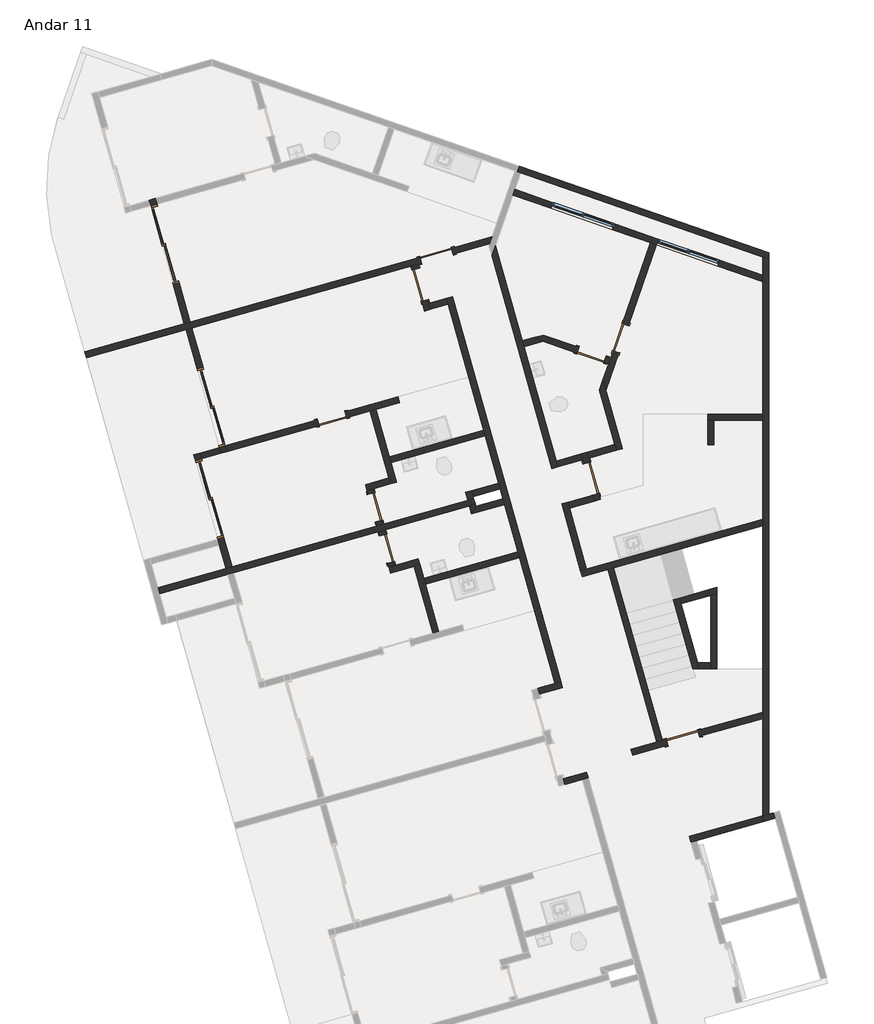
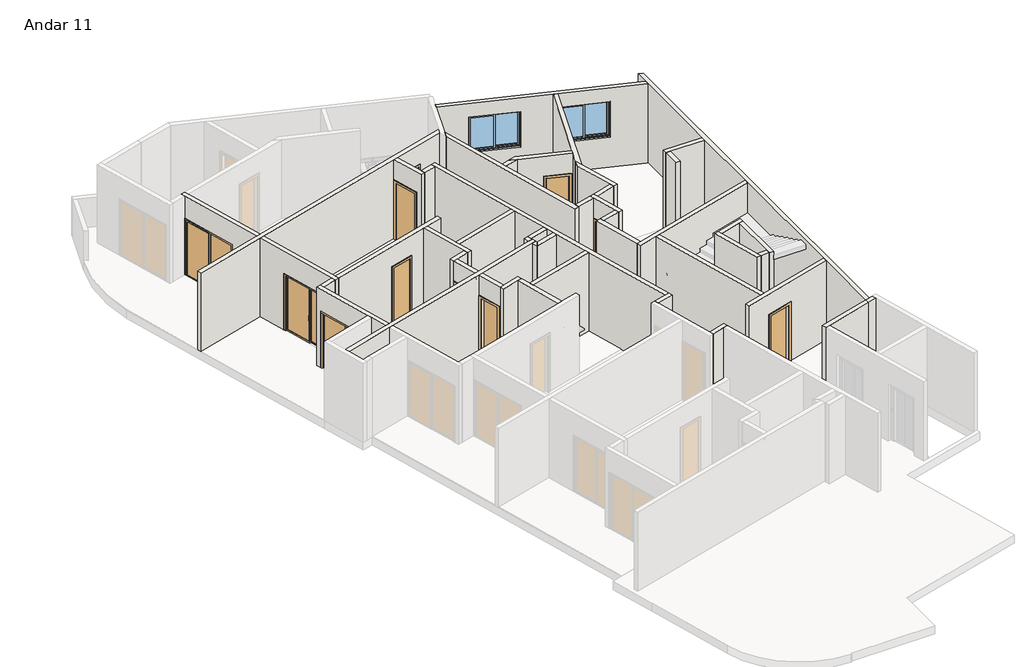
# One storey, part 2 of 3: 48 walls, 12 doors, 2 windows.
"""IFC4 building model written with IfcOpenShell, lengths in millimetres."""

from ifc_helpers import new_model, si_unit, frame, origin, place, context, project, spatial, polyline, outline, extrude, faceted_brep, transform, mapped, element, save
from components import p2_80cm_9d4be4ef, p2_80cm_083652d6, p3_70cm_ef4d15e3, p3_70cm_0a698c7c, p4_correr_200cm_eaaa0877, jx_160cm_e9e36a0c

model = new_model("IFC4")

# Units and contexts
model_context = context("Model", 3, world=origin())
ifc_project = project(units=[si_unit("LENGTHUNIT", "METRE", prefix="MILLI")], contexts=[model_context])

# Site, building, storey
site = spatial("IfcSite", under=ifc_project)
building = spatial("IfcBuilding", under=site)
storey = spatial("IfcBuildingStorey", under=building, Name="Andar 11", Elevation=82650.0)

# Doors
placement = place(None, origin())
p2_80cm_shape = p2_80cm_9d4be4ef(model_context)
element("IfcDoor", 1, ObjectType="M_Folha única1 : P2 - 80CM", at=placement, inside=storey, context=model_context, shape_type="MappedRepresentation", body=[
    mapped(p2_80cm_shape, transform((-83145.1128896, 30941.0402894, 82650.0), x_axis=(-0.9623628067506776, -0.2717679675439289, 0.0), y_axis=(0.2717679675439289, -0.9623628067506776, 0.0), z_axis=(0.0, 0.0, 1.0))),
])
element("IfcDoor", 2, ObjectType="M_Folha única1 : P2 - 80CM", at=placement, inside=storey, context=model_context, shape_type="MappedRepresentation", body=[
    mapped(p2_80cm_shape, transform((-79349.4097406, 25479.1041247, 82650.0), x_axis=(-0.27176796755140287, 0.962362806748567, 0.0), y_axis=(-0.962362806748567, -0.27176796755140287, 0.0), z_axis=(0.0, 0.0, 1.0))),
])
p2_80cm_2_shape = p2_80cm_083652d6(model_context)
element("IfcDoor", 3, ObjectType="M_Folha única1 : P2 - 80CM", at=placement, inside=storey, context=model_context, shape_type="MappedRepresentation", body=[
    mapped(p2_80cm_2_shape, transform((-83542.2049222, 30231.4150941, 82650.0), x_axis=(-0.2717679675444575, 0.9623628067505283, 0.0), y_axis=(-0.9623628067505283, -0.2717679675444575, 0.0), z_axis=(0.0, 0.0, 1.0))),
])
p3_70cm_shape = p3_70cm_ef4d15e3(model_context)
element("IfcDoor", 4, ObjectType="M_Folha única1 : P3 - 70CM", at=placement, inside=storey, context=model_context, shape_type="MappedRepresentation", body=[
    mapped(p3_70cm_shape, transform((-84650.97864, 24774.7108835, 82650.0), x_axis=(0.2717679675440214, -0.9623628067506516, 0.0), y_axis=(0.9623628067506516, 0.2717679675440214, 0.0), z_axis=(0.0, 0.0, 1.0))),
])
p3_70cm_2_shape = p3_70cm_0a698c7c(model_context)
element("IfcDoor", 5, ObjectType="M_Folha única1 : P3 - 70CM", at=placement, inside=storey, context=model_context, shape_type="MappedRepresentation", body=[
    mapped(p3_70cm_2_shape, transform((-84365.6222741, 23764.2299364, 82650.0), x_axis=(-0.2717679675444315, 0.9623628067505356, 0.0), y_axis=(-0.9623628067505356, -0.2717679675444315, 0.0), z_axis=(0.0, 0.0, 1.0))),
])
element("IfcDoor", 6, ObjectType="M_Folha única1 : P3 - 70CM", at=placement, inside=storey, context=model_context, shape_type="MappedRepresentation", body=[
    mapped(p3_70cm_2_shape, transform((-85705.4317558, 26944.8211633, 82650.0), x_axis=(0.9623628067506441, 0.2717679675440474, 0.0), y_axis=(-0.2717679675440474, 0.9623628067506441, 0.0), z_axis=(0.0, 0.0, 1.0))),
])
element("IfcDoor", 7, ObjectType="M_Folha única1 : P3 - 70CM", at=placement, inside=storey, context=model_context, shape_type="MappedRepresentation", body=[
    mapped(p3_70cm_2_shape, transform((-79346.1223746, 28509.6973665, 82650.0), x_axis=(0.9449109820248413, -0.32732741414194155, 0.0), y_axis=(0.32732741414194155, 0.9449109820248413, 0.0), z_axis=(0.0, 0.0, 1.0))),
])
element("IfcDoor", 8, ObjectType="M_Folha única1 : P3 - 70CM", at=placement, inside=storey, context=model_context, shape_type="MappedRepresentation", body=[
    mapped(p3_70cm_2_shape, transform((-78626.5662556, 28921.8732895, 82650.0), x_axis=(-0.32732741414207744, -0.9449109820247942, 0.0), y_axis=(0.9449109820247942, -0.32732741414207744, 0.0), z_axis=(0.0, 0.0, 1.0))),
])
p4_correr_200cm_shape = p4_correr_200cm_eaaa0877(model_context)
element("IfcDoor", 9, ObjectType="Porta de correr dupla envidraçada sem revestimento : P4 - CORRER - 200CM", at=placement, inside=storey, context=model_context, shape_type="MappedRepresentation", body=[
    mapped(p4_correr_200cm_shape, transform((-89799.7974026, 31217.9316171, 82650.0), x_axis=(0.27176796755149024, -0.9623628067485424, 0.0), y_axis=(0.9623628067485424, 0.27176796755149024, 0.0), z_axis=(0.0, 0.0, 1.0))),
])
element("IfcDoor", 10, ObjectType="Porta de correr dupla envidraçada sem revestimento : P4 - CORRER - 200CM", at=placement, inside=storey, context=model_context, shape_type="MappedRepresentation", body=[
    mapped(p4_correr_200cm_shape, transform((-88671.9603372, 27224.125969, 82650.0), x_axis=(-0.27176796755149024, 0.9623628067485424, 0.0), y_axis=(-0.9623628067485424, -0.27176796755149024, 0.0), z_axis=(0.0, 0.0, 1.0))),
])
element("IfcDoor", 11, ObjectType="Porta de correr dupla envidraçada sem revestimento : P4 - CORRER - 200CM", at=placement, inside=storey, context=model_context, shape_type="MappedRepresentation", body=[
    mapped(p4_correr_200cm_shape, transform((-88709.3738038, 24979.4758572, 82650.0), x_axis=(-0.2717679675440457, 0.9623628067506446, 0.0), y_axis=(-0.9623628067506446, -0.2717679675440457, 0.0), z_axis=(0.0, 0.0, 1.0))),
])
element("IfcDoor", 12, ObjectType="M_Folha única1 : PCF1 - 80CM", at=placement, inside=storey, context=model_context, shape_type="MappedRepresentation", body=[
    mapped(p2_80cm_shape, transform((-77103.5502958, 19127.1105693, 82650.0), x_axis=(-0.9623628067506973, -0.2717679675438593, 0.0), y_axis=(0.2717679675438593, -0.9623628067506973, 0.0), z_axis=(0.0, 0.0, 1.0))),
])

# Walls
element("IfcWall", 13, ObjectType="Básica .15 -  Interna", at=placement, inside=storey, context=model_context, shape_type="Brep", body=[
    faceted_brep([(-82901.0804648, 29892.9118737, 82650.0), (-82860.3152697, 29748.5574527, 82650.0), (-81990.6577736, 26668.9964711, 82650.0), (-81949.8925784, 26524.6420501, 82650.0), (-81623.7710174, 25369.806682, 82650.0), (-81583.0058223, 25225.452261, 82650.0), (-81515.0638304, 24984.8615593, 82650.0), (-81474.2986352, 24840.5071383, 82650.0), (-81148.1770742, 23685.6717702, 82650.0), (-81107.4118791, 23541.3173492, 82650.0), (-80237.7543829, 20461.7563676, 82650.0), (-80237.7543829, 20461.7563676, 85550.0), (-81107.4118791, 23541.3173492, 85550.0), (-81148.1770742, 23685.6717702, 85550.0), (-81474.2986352, 24840.5071383, 85550.0), (-81515.0638304, 24984.8615593, 85550.0), (-81583.0058223, 25225.452261, 85550.0), (-81623.7710174, 25369.806682, 85550.0), (-81949.8925784, 26524.6420501, 85550.0), (-81990.6577736, 26668.9964711, 85550.0), (-82860.3152697, 29748.5574527, 85550.0), (-82901.0804648, 29892.9118737, 85550.0), (-82756.7260438, 29933.6770689, 82650.0), (-82756.7260438, 29933.6770689, 85550.0), (-80093.3999619, 20502.5215627, 85550.0), (-80093.3999619, 20502.5215627, 82650.0)], [[[0, 1, 2, 3, 4, 5, 6, 7, 8, 9, 10, 11, 12, 13, 14, 15, 16, 17, 18, 19, 20, 21]], [[22, 23, 24, 25]], [[10, 9, 8, 7, 6, 5, 4, 3, 2, 1, 0, 22, 25]], [[21, 20, 19, 18, 17, 16, 15, 14, 13, 12, 11, 24, 23]], [[0, 21, 23, 22]], [[11, 10, 25, 24]]]),
])
element("IfcWall", 14, ObjectType="Básica .15 -  Interna", at=placement, inside=storey, context=model_context, shape_type="Brep", body=[
    faceted_brep([(-83750.2661164, 30692.2138999, 82650.0), (-83723.0893197, 30595.9776193, 82650.0), (-83723.0893197, 30595.9776193, 84750.0), (-83505.6749457, 29826.0873739, 84750.0), (-83505.6749457, 29826.0873739, 82650.0), (-83437.7329538, 29585.4966722, 82650.0), (-83437.7329538, 29585.4966722, 85550.0), (-83750.2661164, 30692.2138999, 85550.0), (-83578.7348987, 30636.7428144, 84750.0), (-83578.7348987, 30636.7428144, 82650.0), (-83605.9116954, 30732.9790951, 82650.0), (-83605.9116954, 30732.9790951, 85550.0), (-83334.1437279, 29770.6162883, 85550.0), (-83293.3785328, 29626.2618673, 85550.0), (-83293.3785328, 29626.2618673, 82650.0), (-83334.1437279, 29770.6162883, 82650.0), (-83361.3205246, 29866.852569, 82650.0), (-83361.3205246, 29866.852569, 84750.0)], [[[0, 1, 2, 3, 4, 5, 6, 7]], [[8, 9, 10, 11, 12, 13, 14, 15, 16, 17]], [[10, 9, 1, 0]], [[16, 15, 14, 5, 4]], [[7, 6, 13, 12, 11]], [[6, 5, 14, 13]], [[0, 7, 11, 10]], [[2, 1, 9, 8]], [[3, 2, 8, 17]], [[4, 3, 17, 16]]]),
])
element("IfcWall", 15, ObjectType="Básica .15 -  Interna", at=placement, inside=storey, context=model_context, shape_type="SweptSolid", body=[
    extrude(outline(polyline([(-82860.3152697, 29748.5574527), (-83293.3785328, 29626.2618673), (-83334.1437279, 29770.6162883), (-82901.0804648, 29892.9118737), (-82860.3152697, 29748.5574527)])), frame((0.0, 0.0, 82650.0), z_axis=(0.0, 0.0, 1.0), x_axis=(1.0, 0.0, 0.0)), (0.0, 0.0, 1.0), 2900.0),
])
element("IfcWall", 16, ObjectType="Básica .15 -  Interna", at=placement, inside=storey, context=model_context, shape_type="Brep", body=[
    faceted_brep([(-80093.3999619, 20502.5215627, 82650.0), (-80237.7543829, 20461.7563676, 82650.0), (-80670.817646, 20339.4607822, 82650.0), (-80670.817646, 20339.4607822, 85550.0), (-80237.7543829, 20461.7563676, 85550.0), (-80093.3999619, 20502.5215627, 85550.0), (-80052.6347668, 20358.1671417, 82650.0), (-80052.6347668, 20358.1671417, 85550.0), (-80630.0524508, 20195.1063612, 85550.0), (-80630.0524508, 20195.1063612, 82650.0)], [[[0, 1, 2, 3, 4, 5]], [[6, 7, 8, 9]], [[2, 1, 0, 6, 9]], [[5, 4, 3, 8, 7]], [[3, 2, 9, 8]], [[0, 5, 7, 6]]]),
])
element("IfcWall", 17, ObjectType="Básica .15 -  Interna", at=placement, inside=storey, context=model_context, shape_type="Brep", body=[
    faceted_brep([(-80004.9861255, 17981.6719056, 82650.0), (-79571.9228624, 18103.967491, 82650.0), (-79427.5684414, 18144.7326862, 82650.0), (-79427.5684414, 18144.7326862, 85550.0), (-79571.9228624, 18103.967491, 85550.0), (-80004.9861255, 17981.6719056, 85550.0), (-80045.7513206, 18126.0263266, 82650.0), (-80045.7513206, 18126.0263266, 85550.0), (-79468.3336366, 18289.0871072, 85550.0), (-79468.3336366, 18289.0871072, 82650.0)], [[[0, 1, 2, 3, 4, 5]], [[6, 7, 8, 9]], [[2, 1, 0, 6, 9]], [[5, 4, 3, 8, 7]], [[3, 2, 9, 8]], [[0, 5, 7, 6]]]),
])
element("IfcWall", 18, ObjectType="Básica .15 -  Interna", at=placement, inside=storey, context=model_context, shape_type="Brep", body=[
    faceted_brep([(-88305.9570711, 23274.9583478, 85550.0), (-88469.0178517, 23852.3760319, 85550.0), (-88509.7830468, 23996.7304529, 85550.0), (-89094.084177, 26065.8104874, 85550.0), (-89094.084177, 26065.8104874, 82650.0), (-89053.3189819, 25921.4560664, 82650.0), (-89053.3189819, 25921.4560664, 84750.0), (-88509.7830468, 23996.7304529, 84750.0), (-88509.7830468, 23996.7304529, 82650.0), (-88469.0178517, 23852.3760319, 82650.0), (-88305.9570711, 23274.9583478, 82650.0), (-88949.729756, 26106.5756825, 85550.0), (-88908.9645609, 25962.2212615, 85550.0), (-88161.6026501, 23315.723543, 85550.0), (-88161.6026501, 23315.723543, 82650.0), (-88365.4286258, 24037.495648, 82650.0), (-88365.4286258, 24037.495648, 84750.0), (-88908.9645609, 25962.2212615, 84750.0), (-88908.9645609, 25962.2212615, 82650.0), (-88949.729756, 26106.5756825, 82650.0)], [[[0, 1, 2, 3, 4, 5, 6, 7, 8, 9, 10]], [[11, 12, 13, 14, 15, 16, 17, 18, 19]], [[4, 19, 18, 5]], [[14, 10, 9, 8, 15]], [[3, 2, 1, 0, 13, 12, 11]], [[4, 3, 11, 19]], [[0, 10, 14, 13]], [[17, 6, 5, 18]], [[6, 17, 16, 7]], [[7, 16, 15, 8]]]),
])
element("IfcWall", 19, ObjectType="Básica .15 -  Interna", at=placement, inside=storey, context=model_context, shape_type="Brep", body=[
    faceted_brep([(-89143.3190618, 29169.2341801, 85550.0), (-88328.0151592, 26282.1457598, 85550.0), (-88287.249964, 26137.7913388, 85550.0), (-88287.249964, 26137.7913388, 82650.0), (-88328.0151592, 26282.1457598, 82650.0), (-88328.0151592, 26282.1457598, 84750.0), (-88871.5510943, 28206.8713733, 84750.0), (-88871.5510943, 28206.8713733, 82650.0), (-89143.3190618, 29169.2341801, 82650.0), (-88431.604385, 26097.0261437, 85550.0), (-88472.3695802, 26241.3805647, 85550.0), (-89287.6734828, 29128.468985, 85550.0), (-89287.6734828, 29128.468985, 82650.0), (-89015.9055153, 28166.1061782, 82650.0), (-89015.9055153, 28166.1061782, 84750.0), (-88472.3695802, 26241.3805647, 84750.0), (-88472.3695802, 26241.3805647, 82650.0), (-88431.604385, 26097.0261437, 82650.0)], [[[0, 1, 2, 3, 4, 5, 6, 7, 8]], [[9, 10, 11, 12, 13, 14, 15, 16, 17]], [[3, 17, 16, 4]], [[12, 8, 7, 13]], [[2, 1, 0, 11, 10, 9]], [[3, 2, 9, 17]], [[0, 8, 12, 11]], [[6, 14, 13, 7]], [[14, 6, 5, 15]], [[15, 5, 4, 16]]]),
])
element("IfcWall", 20, ObjectType="Básica .15 -  Interna", at=placement, inside=storey, context=model_context, shape_type="Brep", body=[
    faceted_brep([(-76904.7538909, 16570.3643175, 82650.0), (-76760.3994699, 16611.1295126, 82650.0), (-75147.8282189, 17066.5141226, 82650.0), (-75147.8282189, 17066.5141226, 85550.0), (-76760.3994699, 16611.1295126, 85550.0), (-76904.7538909, 16570.3643175, 85550.0), (-76945.5190861, 16714.7187385, 82650.0), (-76945.5190861, 16714.7187385, 85550.0), (-75147.8282189, 17222.3804954, 85550.0), (-75147.8282189, 17222.3804954, 82650.0)], [[[0, 1, 2, 3, 4, 5]], [[6, 7, 8, 9]], [[2, 1, 0, 6, 9]], [[5, 4, 3, 8, 7]], [[0, 5, 7, 6]], [[3, 2, 9, 8]]]),
])
element("IfcWall", 21, ObjectType="Básica .15 -  Interna", at=placement, inside=storey, context=model_context, shape_type="Brep", body=[
    faceted_brep([(-79570.9048554, 23078.5590693, 82650.0), (-78948.2127609, 23254.4051886, 82650.0), (-78803.8582924, 23295.1703972, 82650.0), (-75147.8282189, 24327.6207947, 82650.0), (-75147.8282189, 24327.6207947, 85550.0), (-78803.8582924, 23295.1703972, 85550.0), (-78948.2127609, 23254.4051886, 85550.0), (-79570.9048554, 23078.5590693, 85550.0), (-79611.6700506, 23222.9134903, 82650.0), (-79611.6700506, 23222.9134903, 85550.0), (-79467.3156296, 23263.6786855, 85550.0), (-75147.8282189, 24483.4871675, 85550.0), (-75147.8282189, 24483.4871675, 82650.0), (-79467.3156296, 23263.6786855, 82650.0)], [[[0, 1, 2, 3, 4, 5, 6, 7]], [[8, 9, 10, 11, 12, 13]], [[3, 2, 1, 0, 8, 13, 12]], [[7, 6, 5, 4, 11, 10, 9]], [[0, 7, 9, 8]], [[4, 3, 12, 11]]]),
])
element("IfcWall", 22, ObjectType="Básica .15 -  Interna", at=placement, inside=storey, context=model_context, shape_type="SweptSolid", body=[
    extrude(outline(polyline([(-77749.4687652, 19022.6385875), (-78948.2127609, 23254.4051886), (-78803.8582924, 23295.1703972), (-77605.1142967, 19063.4037961), (-77749.4687652, 19022.6385875)])), frame((0.0, 0.0, 82650.0), z_axis=(0.0, 0.0, 1.0), x_axis=(1.0, 0.0, 0.0)), (0.0, 0.0, 1.0), 2900.0),
])
element("IfcWall", 23, ObjectType="Básica .15 -  Interna", at=placement, inside=storey, context=model_context, shape_type="Brep", body=[
    faceted_brep([(-77508.878016, 19090.5805928, 84750.0), (-77508.878016, 19090.5805928, 82650.0), (-77605.1142967, 19063.4037961, 82650.0), (-77749.4687652, 19022.6385875, 82650.0), (-78375.5945972, 18845.8227925, 82650.0), (-78375.5945972, 18845.8227925, 85550.0), (-77749.4687652, 19022.6385875, 85550.0), (-77605.1142967, 19063.4037961, 85550.0), (-75147.8282189, 19757.3329862, 85550.0), (-75147.8282189, 19757.3329862, 82650.0), (-76738.9877706, 19307.9949669, 82650.0), (-76738.9877706, 19307.9949669, 84750.0), (-78334.829402, 18701.4683715, 82650.0), (-77468.1128209, 18946.2261718, 82650.0), (-77468.1128209, 18946.2261718, 84750.0), (-76698.2225755, 19163.6405459, 84750.0), (-76698.2225755, 19163.6405459, 82650.0), (-75147.8282189, 19601.4666134, 82650.0), (-75147.8282189, 19601.4666134, 85550.0), (-78334.829402, 18701.4683715, 85550.0)], [[[0, 1, 2, 3, 4, 5, 6, 7, 8, 9, 10, 11]], [[12, 13, 14, 15, 16, 17, 18, 19]], [[10, 9, 17, 16]], [[4, 3, 2, 1, 13, 12]], [[5, 4, 12, 19]], [[8, 7, 6, 5, 19, 18]], [[14, 13, 1, 0]], [[15, 14, 0, 11]], [[16, 15, 11, 10]], [[9, 8, 18, 17]]]),
])
element("IfcWall", 24, ObjectType="Básica .15 - Externa", at=placement, inside=storey, context=model_context, shape_type="Brep", body=[
    faceted_brep([(-75147.8282189, 30909.9128092, 85550.0), (-75147.8282189, 30909.9128092, 82650.0), (-75147.8282189, 30461.6117638, 82650.0), (-75147.8282189, 30302.8666514, 82650.0), (-75147.8282189, 27060.8243598, 82650.0), (-75147.8282189, 26910.8243598, 82650.0), (-75147.8282189, 24483.4871675, 82650.0), (-75147.8282189, 24327.6207947, 82650.0), (-75147.8282189, 19757.3329862, 82650.0), (-75147.8282189, 19601.4666134, 82650.0), (-75147.8282189, 17222.3804954, 82650.0), (-75147.8282189, 17222.3804954, 85550.0), (-75147.8282189, 19601.4666134, 85550.0), (-75147.8282189, 19757.3329862, 85550.0), (-75147.8282189, 24327.6207947, 85550.0), (-75147.8282189, 24483.4871675, 85550.0), (-75147.8282189, 26910.8243598, 85550.0), (-75147.8282189, 27060.8243598, 85550.0), (-75147.8282189, 30302.8666514, 85550.0), (-75147.8282189, 30461.6117638, 85550.0), (-74997.8282189, 30857.9511821, 82650.0), (-74997.8282189, 30857.9511821, 83950.0), (-74997.8282189, 30857.9511821, 85250.0), (-74997.8282189, 30857.9511821, 85550.0), (-74997.8282189, 17264.7399828, 85550.0), (-74997.8282189, 17264.7399828, 82650.0)], [[[0, 1, 2, 3, 4, 5, 6, 7, 8, 9, 10, 11, 12, 13, 14, 15, 16, 17, 18, 19]], [[20, 21, 22, 23, 24, 25]], [[10, 9, 8, 7, 6, 5, 4, 3, 2, 1, 20, 25]], [[0, 19, 18, 17, 16, 15, 14, 13, 12, 11, 24, 23]], [[11, 10, 25, 24]], [[0, 23, 22, 21, 20, 1]]]),
])
element("IfcWall", 25, ObjectType="Básica .15 -  Interna", at=placement, inside=storey, context=model_context, shape_type="Brep", body=[
    faceted_brep([(-80073.6755954, 24858.9302618, 82650.0), (-79611.6700506, 23222.9134903, 82650.0), (-79611.6700506, 23222.9134903, 85550.0), (-80073.6755954, 24858.9302618, 85550.0), (-79929.3211744, 24899.695457, 82650.0), (-79929.3211744, 24899.695457, 85550.0), (-79888.5559793, 24755.3410359, 85550.0), (-79467.3156296, 23263.6786855, 85550.0), (-79467.3156296, 23263.6786855, 82650.0), (-79888.5559793, 24755.3410359, 82650.0)], [[[0, 1, 2, 3]], [[4, 5, 6, 7, 8, 9]], [[1, 0, 4, 9, 8]], [[3, 2, 7, 6, 5]], [[0, 3, 5, 4]], [[2, 1, 8, 7]]]),
])
element("IfcWall", 26, ObjectType="Básica .15 -  Interna", at=placement, inside=storey, context=model_context, shape_type="Brep", body=[
    faceted_brep([(-79888.5559793, 24755.3410359, 82650.0), (-79272.1145689, 24929.4219834, 82650.0), (-79272.1145689, 24929.4219834, 85550.0), (-79888.5559793, 24755.3410359, 85550.0), (-79929.3211744, 24899.695457, 82650.0), (-79929.3211744, 24899.695457, 85550.0), (-79312.8797641, 25073.7764044, 85550.0), (-79312.8797641, 25073.7764044, 84750.0), (-79312.8797641, 25073.7764044, 82650.0)], [[[0, 1, 2, 3]], [[4, 5, 6, 7, 8]], [[1, 0, 4, 8]], [[3, 2, 6, 5]], [[0, 3, 5, 4]], [[2, 1, 8, 7, 6]]]),
])
element("IfcWall", 27, ObjectType="Básica .15 -  Interna", at=placement, inside=storey, context=model_context, shape_type="Brep", body=[
    faceted_brep([(-79598.23613, 26084.2573515, 82650.0), (-79557.4709349, 25939.9029305, 82650.0), (-79530.2941381, 25843.6666498, 82650.0), (-79530.2941381, 25843.6666498, 84750.0), (-79312.8797641, 25073.7764044, 84750.0), (-79312.8797641, 25073.7764044, 82650.0), (-79272.1145689, 24929.4219834, 82650.0), (-79272.1145689, 24929.4219834, 85550.0), (-79312.8797641, 25073.7764044, 85550.0), (-79557.4709349, 25939.9029305, 85550.0), (-79598.23613, 26084.2573515, 85550.0), (-79385.9397171, 25884.4318449, 84750.0), (-79385.9397171, 25884.4318449, 82650.0), (-79413.1165138, 25980.6681256, 82650.0), (-79453.881709, 26125.0225466, 82650.0), (-79453.881709, 26125.0225466, 85550.0), (-79413.1165138, 25980.6681256, 85550.0), (-79127.7601479, 24970.1871785, 85550.0), (-79127.7601479, 24970.1871785, 82650.0), (-79168.5253431, 25114.5415995, 82650.0), (-79168.5253431, 25114.5415995, 84750.0)], [[[0, 1, 2, 3, 4, 5, 6, 7, 8, 9, 10]], [[11, 12, 13, 14, 15, 16, 17, 18, 19, 20]], [[19, 18, 6, 5]], [[14, 13, 12, 2, 1, 0]], [[10, 9, 8, 7, 17, 16, 15]], [[7, 6, 18, 17]], [[0, 10, 15, 14]], [[3, 2, 12, 11]], [[4, 3, 11, 20]], [[5, 4, 20, 19]]]),
])
element("IfcWall", 28, ObjectType="Básica .15 -  Interna", at=placement, inside=storey, context=model_context, shape_type="Brep", body=[
    faceted_brep([(-81789.2550074, 30934.0017027, 82650.0), (-80318.2667662, 25725.0567879, 82650.0), (-80318.2667662, 25725.0567879, 85550.0), (-81789.2550074, 30934.0017027, 85550.0), (-81703.3880158, 31181.8778654, 82650.0), (-81703.3880158, 31181.8778654, 85550.0), (-81045.1503443, 28850.9797144, 85550.0), (-81004.3851492, 28706.6252933, 85550.0), (-80214.6775403, 25910.176404, 85550.0), (-80173.9123452, 25765.821983, 85550.0), (-80173.9123452, 25765.821983, 82650.0), (-80214.6775403, 25910.176404, 82650.0), (-81004.3851492, 28706.6252933, 82650.0), (-81045.1503443, 28850.9797144, 82650.0)], [[[0, 1, 2, 3]], [[4, 5, 6, 7, 8, 9, 10, 11, 12, 13]], [[1, 0, 4, 13, 12, 11, 10]], [[3, 2, 9, 8, 7, 6, 5]], [[0, 3, 5, 4]], [[2, 1, 10, 9]]]),
])
element("IfcWall", 29, ObjectType="Básica .15 -  Interna", at=placement, inside=storey, context=model_context, shape_type="Brep", body=[
    faceted_brep([(-88908.9645609, 25962.2212615, 82650.0), (-88431.604385, 26097.0261437, 82650.0), (-88431.604385, 26097.0261437, 85550.0), (-88908.9645609, 25962.2212615, 85550.0), (-88908.9645609, 25962.2212615, 84750.0), (-88949.729756, 26106.5756825, 82650.0), (-88949.729756, 26106.5756825, 85550.0), (-88472.3695802, 26241.3805647, 85550.0), (-88472.3695802, 26241.3805647, 82650.0)], [[[0, 1, 2, 3, 4]], [[5, 6, 7, 8]], [[1, 0, 5, 8]], [[3, 2, 7, 6]], [[0, 4, 3, 6, 5]], [[2, 1, 8, 7]]]),
])
element("IfcWall", 30, ObjectType="Básica .15 -  Interna", at=placement, inside=storey, context=model_context, shape_type="SweptSolid", body=[
    extrude(outline(polyline([(-79557.4709349, 25939.9029305), (-80173.9123452, 25765.821983), (-80214.6775403, 25910.176404), (-79598.23613, 26084.2573515), (-79557.4709349, 25939.9029305)])), frame((0.0, 0.0, 82650.0), z_axis=(0.0, 0.0, 1.0), x_axis=(1.0, 0.0, 0.0)), (0.0, 0.0, 1.0), 2900.0),
])
element("IfcWall", 31, ObjectType="Básica .15 -  Interna", at=placement, inside=storey, context=model_context, shape_type="Brep", body=[
    faceted_brep([(-91725.2428613, 28440.1077234, 82650.0), (-89287.6734828, 29128.468985, 82650.0), (-89143.3190618, 29169.2341801, 82650.0), (-83750.2661164, 30692.2138999, 82650.0), (-83605.9116954, 30732.9790951, 82650.0), (-83509.6754148, 30760.1558918, 82650.0), (-83509.6754148, 30760.1558918, 84750.0), (-82739.7851694, 30977.5702659, 84750.0), (-82739.7851694, 30977.5702659, 82650.0), (-81845.4155775, 31230.1371819, 82650.0), (-81845.4155775, 31230.1371819, 85550.0), (-83605.9116954, 30732.9790951, 85550.0), (-83750.2661164, 30692.2138999, 85550.0), (-89143.3190618, 29169.2341801, 85550.0), (-89287.6734828, 29128.468985, 85550.0), (-91725.2428613, 28440.1077234, 85550.0), (-83550.4406099, 30904.5103128, 84750.0), (-83550.4406099, 30904.5103128, 82650.0), (-89184.084257, 29313.5886011, 82650.0), (-89328.438678, 29272.823406, 82650.0), (-91766.0080564, 28584.4621444, 82650.0), (-91766.0080564, 28584.4621444, 85550.0), (-89328.438678, 29272.823406, 85550.0), (-89184.084257, 29313.5886011, 85550.0), (-81785.5670817, 31402.9045654, 85550.0), (-81785.5670817, 31402.9045654, 82650.0), (-82780.5503645, 31121.9246869, 82650.0), (-82780.5503645, 31121.9246869, 84750.0)], [[[0, 1, 2, 3, 4, 5, 6, 7, 8, 9, 10, 11, 12, 13, 14, 15]], [[16, 17, 18, 19, 20, 21, 22, 23, 24, 25, 26, 27]], [[26, 25, 9, 8]], [[20, 19, 18, 17, 5, 4, 3, 2, 1, 0]], [[15, 14, 13, 12, 11, 10, 24, 23, 22, 21]], [[0, 15, 21, 20]], [[10, 9, 25, 24]], [[6, 5, 17, 16]], [[7, 6, 16, 27]], [[8, 7, 27, 26]]]),
])
element("IfcWall", 32, ObjectType="Básica .15 -  Interna", at=placement, inside=storey, context=model_context, shape_type="Brep", body=[
    faceted_brep([(-90040.1533547, 32345.0314424, 85550.0), (-89999.3881596, 32200.6770214, 85550.0), (-89184.084257, 29313.5886011, 85550.0), (-89184.084257, 29313.5886011, 82650.0), (-89455.8522245, 30275.9514079, 82650.0), (-89455.8522245, 30275.9514079, 84750.0), (-89999.3881596, 32200.6770214, 84750.0), (-89999.3881596, 32200.6770214, 82650.0), (-90040.1533547, 32345.0314424, 82650.0), (-89328.438678, 29272.823406, 85550.0), (-90143.7425806, 32159.9118263, 85550.0), (-90184.5077758, 32304.2662473, 85550.0), (-90184.5077758, 32304.2662473, 82650.0), (-90143.7425806, 32159.9118262, 82650.0), (-90143.7425806, 32159.9118262, 84750.0), (-89600.2066455, 30235.1862128, 84750.0), (-89600.2066455, 30235.1862128, 82650.0), (-89328.438678, 29272.823406, 82650.0)], [[[0, 1, 2, 3, 4, 5, 6, 7, 8]], [[9, 10, 11, 12, 13, 14, 15, 16, 17]], [[12, 8, 7, 13]], [[3, 17, 16, 4]], [[2, 1, 0, 11, 10, 9]], [[0, 8, 12, 11]], [[3, 2, 9, 17]], [[15, 5, 4, 16]], [[5, 15, 14, 6]], [[6, 14, 13, 7]]]),
])
element("IfcWall", 33, ObjectType="Básica .15 -  Interna", at=placement, inside=storey, context=model_context, shape_type="Brep", body=[
    faceted_brep([(-89936.6922366, 22658.5779377, 82650.0), (-88265.191876, 23130.6039268, 82650.0), (-88120.837455, 23171.369122, 82650.0), (-84560.09507, 24176.9106019, 82650.0), (-84415.740649, 24217.675797, 82650.0), (-82192.6825654, 24845.459802, 82650.0), (-82192.6825654, 24845.459802, 85550.0), (-84415.740649, 24217.675797, 85550.0), (-84560.09507, 24176.9106019, 85550.0), (-88120.837455, 23171.369122, 85550.0), (-88265.191876, 23130.6039268, 85550.0), (-89936.6922366, 22658.5779377, 85550.0), (-89977.4574318, 22802.9323587, 82650.0), (-89977.4574318, 22802.9323587, 85550.0), (-88305.9570711, 23274.9583478, 85550.0), (-88161.6026501, 23315.723543, 85550.0), (-84600.8602651, 24321.2650229, 85550.0), (-84456.5058441, 24362.030218, 85550.0), (-82233.4477605, 24989.814223, 85550.0), (-82233.4477605, 24989.814223, 82650.0), (-84456.5058441, 24362.030218, 82650.0), (-84600.8602651, 24321.2650229, 82650.0), (-88161.6026501, 23315.723543, 82650.0), (-88305.9570711, 23274.9583478, 82650.0)], [[[0, 1, 2, 3, 4, 5, 6, 7, 8, 9, 10, 11]], [[12, 13, 14, 15, 16, 17, 18, 19, 20, 21, 22, 23]], [[5, 4, 3, 2, 1, 0, 12, 23, 22, 21, 20, 19]], [[6, 5, 19, 18]], [[11, 10, 9, 8, 7, 6, 18, 17, 16, 15, 14, 13]], [[0, 11, 13, 12]]]),
])
element("IfcWall", 34, ObjectType="Básica .15 -  Interna", at=placement, inside=storey, context=model_context, shape_type="Brep", body=[
    faceted_brep([(-81272.8781344, 32424.6503839, 82650.0), (-77897.5766162, 31255.4093243, 82650.0), (-77755.8399689, 31206.3102121, 82650.0), (-75147.8282189, 30302.8666514, 82650.0), (-75147.8282189, 30302.8666514, 85550.0), (-77755.8399689, 31206.3102121, 85550.0), (-77897.5766162, 31255.4093243, 85550.0), (-81272.8781344, 32424.6503839, 85550.0), (-78829.2985897, 31578.1679228, 83750.0), (-80341.1561609, 32101.8917854, 83750.0), (-80341.1561609, 32101.8917854, 85050.0), (-78829.2985897, 31578.1679228, 85050.0), (-76243.9823976, 30682.5863495, 83750.0), (-77755.8399689, 31206.3102121, 83750.0), (-77755.8399689, 31206.3102121, 85050.0), (-76243.9823976, 30682.5863495, 85050.0), (-81223.7790223, 32566.3870312, 82650.0), (-81223.7790223, 32566.3870312, 85550.0), (-75147.8282189, 30461.6117638, 85550.0), (-75147.8282189, 30461.6117638, 82650.0), (-78780.1994776, 31719.9045701, 83750.0), (-78780.1994776, 31719.9045701, 85050.0), (-80292.0570488, 32243.6284327, 85050.0), (-80292.0570488, 32243.6284327, 83750.0), (-76194.8832855, 30824.3229968, 83750.0), (-76194.8832855, 30824.3229968, 85050.0), (-77706.7408568, 31348.0468595, 85050.0), (-77706.7408568, 31348.0468595, 83750.0)], [[[0, 1, 2, 3, 4, 5, 6, 7], [8, 9, 10, 11], [12, 13, 14, 15]], [[16, 17, 18, 19], [20, 21, 22, 23], [24, 25, 26, 27]], [[3, 2, 1, 0, 16, 19]], [[7, 6, 5, 4, 18, 17]], [[0, 7, 17, 16]], [[21, 20, 8, 11]], [[22, 21, 11, 10]], [[23, 22, 10, 9]], [[20, 23, 9, 8]], [[25, 24, 12, 15]], [[26, 25, 15, 14]], [[27, 26, 14, 13]], [[24, 27, 13, 12]], [[4, 3, 19, 18]]]),
])
element("IfcWall", 35, ObjectType="Básica .15 - Externa", at=placement, inside=storey, context=model_context, shape_type="Brep", body=[
    faceted_brep([(-81156.3583355, 32991.3328194, 83950.0), (-81156.3583355, 32991.3328194, 82650.0), (-81156.3583355, 32991.3328194, 82350.0), (-81085.1216301, 32966.655652, 82350.0), (-74997.8282189, 30857.9511821, 82350.0), (-74997.8282189, 30857.9511821, 82650.0), (-74997.8282189, 30857.9511821, 83950.0), (-81085.1216301, 32966.655652, 83950.0), (-81107.2592234, 33133.0694667, 82350.0), (-81107.2592234, 33133.0694667, 82650.0), (-81107.2592234, 33133.0694667, 83950.0), (-81036.022518, 33108.3922993, 83950.0), (-74997.8282189, 31016.6962944, 83950.0), (-74997.8282189, 31016.6962944, 82350.0), (-81036.022518, 33108.3922993, 82350.0)], [[[0, 1, 2, 3, 4, 5, 6, 7]], [[8, 9, 10, 11, 12, 13, 14]], [[4, 3, 2, 8, 14, 13]], [[0, 7, 6, 12, 11, 10]], [[0, 10, 9, 8, 2, 1]], [[4, 13, 12, 6, 5]]]),
])
element("IfcWall", 36, ObjectType="Básica .15 -  Interna", at=placement, inside=storey, context=model_context, shape_type="SweptSolid", body=[
    extrude(outline(polyline([(-82179.094167, 24797.3416617), (-81515.0638304, 24984.8615593), (-81474.2986352, 24840.5071383), (-82282.6833929, 24612.2220455), (-82179.094167, 24797.3416617)])), frame((0.0, 0.0, 82650.0), z_axis=(0.0, 0.0, 1.0), x_axis=(1.0, 0.0, 0.0)), (0.0, 0.0, 1.0), 2900.0),
])
element("IfcWall", 37, ObjectType="Básica .15 -  Interna", at=placement, inside=storey, context=model_context, shape_type="SweptSolid", body=[
    extrude(outline(polyline([(-82192.6825654, 24845.459802), (-82179.094167, 24797.3416617), (-82282.6833929, 24612.2220455), (-82337.0369864, 24804.6946069), (-82192.6825654, 24845.459802)])), frame((0.0, 0.0, 82650.0), z_axis=(0.0, 0.0, 1.0), x_axis=(1.0, 0.0, 0.0)), (0.0, 0.0, 1.0), 2900.0),
])
element("IfcWall", 38, ObjectType="Básica .15 -  Interna", at=placement, inside=storey, context=model_context, shape_type="Brep", body=[
    faceted_brep([(-83593.7317942, 23514.6100515, 82650.0), (-84171.1494782, 23351.5492709, 82650.0), (-84315.5038992, 23310.7840758, 82650.0), (-84315.5038992, 23310.7840758, 85550.0), (-84171.1494782, 23351.5492709, 85550.0), (-83593.7317942, 23514.6100515, 85550.0), (-83552.966599, 23370.2556304, 82650.0), (-83552.966599, 23370.2556304, 85550.0), (-83697.32102, 23329.4904353, 85550.0), (-84274.7387041, 23166.4296548, 85550.0), (-84274.7387041, 23166.4296548, 82650.0), (-83697.32102, 23329.4904353, 82650.0)], [[[0, 1, 2, 3, 4, 5]], [[6, 7, 8, 9, 10, 11]], [[2, 1, 0, 6, 11, 10]], [[5, 4, 3, 9, 8, 7]], [[0, 5, 7, 6]], [[3, 2, 10, 9]]]),
])
element("IfcWall", 39, ObjectType="Básica .15 -  Interna", at=placement, inside=storey, context=model_context, shape_type="Brep", body=[
    faceted_brep([(-83090.9610542, 21734.238859, 82650.0), (-83417.0826153, 22889.0742271, 82650.0), (-83457.8478104, 23033.4286481, 82650.0), (-83552.966599, 23370.2556304, 82650.0), (-83552.966599, 23370.2556304, 85550.0), (-83457.8478104, 23033.4286481, 85550.0), (-83417.0826153, 22889.0742271, 85550.0), (-83090.9610542, 21734.238859, 85550.0), (-83235.3154752, 21693.4736638, 82650.0), (-83235.3154752, 21693.4736638, 85550.0), (-83697.32102, 23329.4904353, 85550.0), (-83697.32102, 23329.4904353, 82650.0)], [[[0, 1, 2, 3, 4, 5, 6, 7]], [[8, 9, 10, 11]], [[3, 2, 1, 0, 8, 11]], [[7, 6, 5, 4, 10, 9]], [[0, 7, 9, 8]], [[4, 3, 11, 10]]]),
])
element("IfcWall", 40, ObjectType="Básica .15 -  Interna", at=placement, inside=storey, context=model_context, shape_type="SweptSolid", body=[
    extrude(outline(polyline([(-83457.8478104, 23033.4286481), (-81148.1770742, 23685.6717702), (-81107.4118791, 23541.3173492), (-83417.0826153, 22889.0742271), (-83457.8478104, 23033.4286481)])), frame((0.0, 0.0, 82650.0), z_axis=(0.0, 0.0, 1.0), x_axis=(1.0, 0.0, 0.0)), (0.0, 0.0, 1.0), 2900.0),
])
element("IfcWall", 41, ObjectType="Básica .15 -  Interna", at=placement, inside=storey, context=model_context, shape_type="SweptSolid", body=[
    extrude(outline(polyline([(150.0, 0.0), (250.0, 0.0), (250.0, -2100.0), (950.0, -2100.0), (950.0, 0.0), (1050.0, 0.0), (1050.0, -2900.0), (150.0, -2900.0), (150.0, 0.0)])), frame((-84600.8602651, 24321.2650229, 82650.0), z_axis=(0.9623628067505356, 0.2717679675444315, 0.0), x_axis=(0.2717679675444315, -0.9623628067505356, 0.0)), (0.0, 0.0, 1.0), 150.0),
])
element("IfcWall", 42, ObjectType="Básica .15 -  Interna", at=placement, inside=storey, context=model_context, shape_type="Brep", body=[
    faceted_brep([(-84770.8044918, 27130.823522, 82650.0), (-84308.798947, 25494.8067505, 82650.0), (-84268.0337519, 25350.4523295, 82650.0), (-84268.0337519, 25350.4523295, 85550.0), (-84308.798947, 25494.8067505, 85550.0), (-84770.8044918, 27130.823522, 85550.0), (-84626.4500708, 27171.5887171, 82650.0), (-84626.4500708, 27171.5887171, 85550.0), (-84300.3285098, 26016.753349, 85550.0), (-84259.5633146, 25872.398928, 85550.0), (-84123.6793309, 25391.2175246, 85550.0), (-84123.6793309, 25391.2175246, 82650.0), (-84259.5633146, 25872.398928, 82650.0), (-84300.3285098, 26016.753349, 82650.0)], [[[0, 1, 2, 3, 4, 5]], [[6, 7, 8, 9, 10, 11, 12, 13]], [[2, 1, 0, 6, 13, 12, 11]], [[5, 4, 3, 10, 9, 8, 7]], [[3, 2, 11, 10]], [[0, 5, 7, 6]]]),
])
element("IfcWall", 43, ObjectType="Básica .15 -  Interna", at=placement, inside=storey, context=model_context, shape_type="SweptSolid", body=[
    extrude(outline(polyline([(-84300.3285098, 26016.753349), (-81990.6577736, 26668.9964711), (-81949.8925784, 26524.6420501), (-84259.5633146, 25872.398928), (-84300.3285098, 26016.753349)])), frame((0.0, 0.0, 82650.0), z_axis=(0.0, 0.0, 1.0), x_axis=(1.0, 0.0, 0.0)), (0.0, 0.0, 1.0), 2900.0),
])
element("IfcWall", 44, ObjectType="Básica .15 -  Interna", at=placement, inside=storey, context=model_context, shape_type="Brep", body=[
    faceted_brep([(-84308.798947, 25494.8067505, 82650.0), (-84886.2166311, 25331.74597, 82650.0), (-84886.2166311, 25331.74597, 85550.0), (-84308.798947, 25494.8067505, 85550.0), (-84268.0337519, 25350.4523295, 82650.0), (-84268.0337519, 25350.4523295, 85550.0), (-84701.0970149, 25228.1567441, 85550.0), (-84845.4514359, 25187.391549, 85550.0), (-84845.4514359, 25187.391549, 82650.0), (-84701.0970149, 25228.1567441, 82650.0)], [[[0, 1, 2, 3]], [[4, 5, 6, 7, 8, 9]], [[1, 0, 4, 9, 8]], [[3, 2, 7, 6, 5]], [[2, 1, 8, 7]], [[0, 3, 5, 4]]]),
])
element("IfcWall", 45, ObjectType="Básica .15 -  Interna", at=placement, inside=storey, context=model_context, shape_type="SweptSolid", body=[
    extrude(outline(polyline([(800.0, -2100.0), (800.0, 0.0), (900.0, 0.0), (900.0, -2900.0), (0.0, -2900.0), (0.0, 0.0), (100.0, 0.0), (100.0, -2100.0), (800.0, -2100.0)])), frame((-84845.4514359, 25187.391549, 82650.0), z_axis=(0.9623628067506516, 0.2717679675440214, 0.0), x_axis=(0.2717679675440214, -0.9623628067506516, 0.0)), (0.0, 0.0, 1.0), 150.0),
])
element("IfcWall", 46, ObjectType="Básica .15 -  Interna", at=placement, inside=storey, context=model_context, shape_type="Brep", body=[
    faceted_brep([(-82432.1557751, 25141.5215893, 82650.0), (-82377.8021816, 24949.0490279, 82650.0), (-82377.8021816, 24949.0490279, 85550.0), (-82432.1557751, 25141.5215893, 85550.0), (-82287.801354, 25182.2867844, 82650.0), (-82287.801354, 25182.2867844, 85550.0), (-82247.0361589, 25037.9323634, 85550.0), (-82233.4477605, 24989.814223, 85550.0), (-82233.4477605, 24989.814223, 82650.0), (-82247.0361589, 25037.9323634, 82650.0)], [[[0, 1, 2, 3]], [[4, 5, 6, 7, 8, 9]], [[1, 0, 4, 9, 8]], [[2, 1, 8, 7]], [[3, 2, 7, 6, 5]], [[0, 3, 5, 4]]]),
])
element("IfcWall", 47, ObjectType="Básica .15 -  Interna", at=placement, inside=storey, context=model_context, shape_type="SweptSolid", body=[
    extrude(outline(polyline([(-81583.0058223, 25225.452261), (-82247.0361589, 25037.9323634), (-82287.801354, 25182.2867844), (-81623.7710174, 25369.806682), (-81583.0058223, 25225.452261)])), frame((0.0, 0.0, 82650.0), z_axis=(0.0, 0.0, 1.0), x_axis=(1.0, 0.0, 0.0)), (0.0, 0.0, 1.0), 2900.0),
])
element("IfcWall", 48, ObjectType="Básica .15 -  Interna", at=placement, inside=storey, context=model_context, shape_type="Brep", body=[
    faceted_brep([(-76493.6479314, 26910.8243598, 82650.0), (-76343.6479314, 26910.8243598, 82650.0), (-75147.8282189, 26910.8243598, 82650.0), (-75147.8282189, 26910.8243598, 85550.0), (-76343.6479314, 26910.8243598, 85550.0), (-76493.6479314, 26910.8243598, 85550.0), (-76493.6479314, 27060.8243598, 82650.0), (-76493.6479314, 27060.8243598, 85550.0), (-75147.8282189, 27060.8243598, 85550.0), (-75147.8282189, 27060.8243598, 82650.0)], [[[0, 1, 2, 3, 4, 5]], [[6, 7, 8, 9]], [[2, 1, 0, 6, 9]], [[5, 4, 3, 8, 7]], [[0, 5, 7, 6]], [[3, 2, 9, 8]]]),
])
element("IfcWall", 49, ObjectType="Básica .15 -  Interna", at=placement, inside=storey, context=model_context, shape_type="SweptSolid", body=[
    extrude(outline(polyline([(-76343.6479314, 26910.8243598), (-76343.6479314, 26310.8243598), (-76493.6479314, 26310.8243598), (-76493.6479314, 26910.8243598), (-76343.6479314, 26910.8243598)])), frame((0.0, 0.0, 82650.0), z_axis=(0.0, 0.0, 1.0), x_axis=(1.0, 0.0, 0.0)), (0.0, 0.0, 1.0), 2900.0),
])
element("IfcWall", 50, ObjectType="Básica .15 -  Interna", at=placement, inside=storey, context=model_context, shape_type="Brep", body=[
    faceted_brep([(-78877.464657, 28426.7218055, 82650.0), (-78990.8539749, 28466.0010952, 82650.0), (-78990.8539749, 28466.0010952, 84750.0), (-79652.2916623, 28695.1302851, 84750.0), (-79652.2916623, 28695.1302851, 82650.0), (-80525.6718652, 28997.6786614, 82650.0), (-80525.6718652, 28997.6786614, 85550.0), (-78877.464657, 28426.7218055, 85550.0), (-79039.953087, 28324.2644479, 84750.0), (-79039.953087, 28324.2644479, 82650.0), (-78926.5637691, 28284.9851582, 82650.0), (-78926.5637691, 28284.9851582, 85550.0), (-80530.2499593, 28840.5194505, 85550.0), (-80778.126122, 28926.3864421, 85550.0), (-80778.126122, 28926.3864421, 82650.0), (-80530.2499593, 28840.5194505, 82650.0), (-79701.3907744, 28553.3936378, 82650.0), (-79701.3907744, 28553.3936378, 84750.0)], [[[0, 1, 2, 3, 4, 5, 6, 7]], [[8, 9, 10, 11, 12, 13, 14, 15, 16, 17]], [[10, 9, 1, 0]], [[16, 15, 14, 5, 4]], [[7, 6, 13, 12, 11]], [[2, 1, 9, 8]], [[3, 2, 8, 17]], [[4, 3, 17, 16]], [[6, 5, 14, 13]], [[0, 7, 11, 10]]]),
])
element("IfcWall", 51, ObjectType="Básica .15 -  Interna", at=placement, inside=storey, context=model_context, shape_type="SweptSolid", body=[
    extrude(outline(polyline([(-81045.1503443, 28850.9797144), (-80778.126122, 28926.3864421), (-80530.2499593, 28840.5194505), (-81004.3851492, 28706.6252933), (-81045.1503443, 28850.9797144)])), frame((0.0, 0.0, 82650.0), z_axis=(0.0, 0.0, 1.0), x_axis=(1.0, 0.0, 0.0)), (0.0, 0.0, 1.0), 2900.0),
])
element("IfcWall", 52, ObjectType="Básica .15 -  Interna", at=placement, inside=storey, context=model_context, shape_type="Brep", body=[
    faceted_brep([(-79146.9727346, 27648.7205404, 82650.0), (-78771.1333302, 26317.8283554, 82650.0), (-78730.3681351, 26173.4739343, 82650.0), (-78730.3681351, 26173.4739343, 85550.0), (-78771.1333302, 26317.8283554, 85550.0), (-79146.9727346, 27648.7205404, 85550.0), (-79061.105743, 27896.5967032, 82650.0), (-79061.105743, 27896.5967032, 85550.0), (-78989.8135237, 27644.1424464, 85550.0), (-78586.013714, 26214.2391295, 85550.0), (-78586.013714, 26214.2391295, 82650.0), (-78989.8135237, 27644.1424464, 82650.0)], [[[0, 1, 2, 3, 4, 5]], [[6, 7, 8, 9, 10, 11]], [[2, 1, 0, 6, 11, 10]], [[5, 4, 3, 9, 8, 7]], [[0, 5, 7, 6]], [[3, 2, 10, 9]]]),
])
element("IfcWall", 53, ObjectType="Básica .15 -  Interna", at=placement, inside=storey, context=model_context, shape_type="Brep", body=[
    faceted_brep([(-78811.9991742, 28615.7040019, 84750.0), (-78811.9991742, 28615.7040019, 82650.0), (-78877.464657, 28426.7218055, 82650.0), (-78926.5637691, 28284.9851582, 82650.0), (-79061.105743, 27896.5967032, 82650.0), (-79061.105743, 27896.5967032, 85550.0), (-78926.5637691, 28284.9851582, 85550.0), (-78877.464657, 28426.7218055, 85550.0), (-77897.5766162, 31255.4093243, 85550.0), (-77897.5766162, 31255.4093243, 82650.0), (-78582.8699843, 29277.1416893, 82650.0), (-78582.8699843, 29277.1416893, 84750.0), (-78989.8135237, 27644.1424464, 82650.0), (-78670.2625269, 28566.6048898, 82650.0), (-78670.2625269, 28566.6048898, 84750.0), (-78441.133337, 29228.0425772, 84750.0), (-78441.133337, 29228.0425772, 82650.0), (-77755.8399689, 31206.3102121, 82650.0), (-77755.8399689, 31206.3102121, 83750.0), (-77755.8399689, 31206.3102121, 85050.0), (-77755.8399689, 31206.3102121, 85550.0), (-78989.8135237, 27644.1424464, 85550.0)], [[[0, 1, 2, 3, 4, 5, 6, 7, 8, 9, 10, 11]], [[12, 13, 14, 15, 16, 17, 18, 19, 20, 21]], [[10, 9, 17, 16]], [[4, 3, 2, 1, 13, 12]], [[8, 7, 6, 5, 21, 20]], [[14, 13, 1, 0]], [[15, 14, 0, 11]], [[16, 15, 11, 10]], [[5, 4, 12, 21]], [[9, 8, 20, 19, 18, 17]]]),
])
element("IfcWall", 54, ObjectType="Básica .15 -  Interna", at=placement, inside=storey, context=model_context, shape_type="Brep", body=[
    faceted_brep([(-85348.2221759, 26967.7627414, 84750.0), (-85348.2221759, 26967.7627414, 82650.0), (-84770.8044918, 27130.823522, 82650.0), (-84626.4500708, 27171.5887171, 82650.0), (-84049.0323868, 27334.6494976, 82650.0), (-84049.0323868, 27334.6494976, 85550.0), (-84626.4500708, 27171.5887171, 85550.0), (-84770.8044918, 27130.823522, 85550.0), (-88287.249964, 26137.7913388, 85550.0), (-88287.249964, 26137.7913388, 82650.0), (-86021.8761406, 26777.5251642, 82650.0), (-86021.8761406, 26777.5251642, 84750.0), (-84089.7975819, 27479.0039186, 82650.0), (-85388.987371, 27112.1171625, 82650.0), (-85388.987371, 27112.1171625, 84750.0), (-86062.6413357, 26921.8795852, 84750.0), (-86062.6413357, 26921.8795852, 82650.0), (-88328.0151592, 26282.1457598, 82650.0), (-88328.0151592, 26282.1457598, 85550.0), (-84089.7975819, 27479.0039186, 85550.0)], [[[0, 1, 2, 3, 4, 5, 6, 7, 8, 9, 10, 11]], [[12, 13, 14, 15, 16, 17, 18, 19]], [[10, 9, 17, 16]], [[4, 3, 2, 1, 13, 12]], [[5, 4, 12, 19]], [[8, 7, 6, 5, 19, 18]], [[16, 15, 11, 10]], [[15, 14, 0, 11]], [[14, 13, 1, 0]], [[9, 8, 18, 17]]]),
])
element("IfcWall", 55, ObjectType="Básica .15 -  Interna", at=placement, inside=storey, context=model_context, shape_type="SweptSolid", body=[
    extrude(outline(polyline([(-78730.3681351, 26173.4739343), (-79413.1165138, 25980.6681256), (-79453.881709, 26125.0225466), (-78771.1333302, 26317.8283554), (-78730.3681351, 26173.4739343)])), frame((0.0, 0.0, 82650.0), z_axis=(0.0, 0.0, 1.0), x_axis=(1.0, 0.0, 0.0)), (0.0, 0.0, 1.0), 2900.0),
])
element("IfcWall", 56, ObjectType="Básica .15 -  Interna", at=placement, inside=storey, context=model_context, shape_type="Brep", body=[
    faceted_brep([(-76703.5854218, 20819.1154254, 82650.0), (-76745.9449092, 20969.1154254, 82650.0), (-77152.5348621, 22408.8989724, 82650.0), (-77193.3000572, 22553.2533934, 82650.0), (-77193.3000572, 22553.2533934, 85550.0), (-77152.5348621, 22408.8989724, 85550.0), (-76745.9449092, 20969.1154254, 85550.0), (-76703.5854218, 20819.1154254, 85550.0), (-76859.4517946, 20819.1154254, 82650.0), (-76859.4517946, 20819.1154254, 85550.0), (-77337.6544782, 22512.4881983, 85550.0), (-77337.6544782, 22512.4881983, 82650.0)], [[[0, 1, 2, 3, 4, 5, 6, 7]], [[8, 9, 10, 11]], [[3, 2, 1, 0, 8, 11]], [[7, 6, 5, 4, 10, 9]], [[4, 3, 11, 10]], [[0, 7, 9, 8]]]),
])
element("IfcWall", 57, ObjectType="Básica .15 -  Interna", at=placement, inside=storey, context=model_context, shape_type="Brep", body=[
    faceted_brep([(-77152.5348621, 22408.8989724, 82650.0), (-76425.2862396, 22614.2714979, 82650.0), (-76275.2862396, 22656.6309852, 82650.0), (-76275.2862396, 22656.6309852, 85550.0), (-76425.2862396, 22614.2714979, 85550.0), (-77152.5348621, 22408.8989724, 85550.0), (-77193.3000572, 22553.2533934, 82650.0), (-77193.3000572, 22553.2533934, 85550.0), (-76275.2862396, 22812.497358, 85550.0), (-76275.2862396, 22812.497358, 82650.0)], [[[0, 1, 2, 3, 4, 5]], [[6, 7, 8, 9]], [[2, 1, 0, 6, 9]], [[5, 4, 3, 8, 7]], [[0, 5, 7, 6]], [[3, 2, 9, 8]]]),
])
element("IfcWall", 58, ObjectType="Básica .15 -  Interna", at=placement, inside=storey, context=model_context, shape_type="Brep", body=[
    faceted_brep([(-76425.2862396, 22614.2714979, 82650.0), (-76425.2862396, 20969.1154254, 82650.0), (-76425.2862396, 20819.1154254, 82650.0), (-76425.2862396, 20819.1154254, 85550.0), (-76425.2862396, 20969.1154254, 85550.0), (-76425.2862396, 22614.2714979, 85550.0), (-76275.2862396, 22656.6309852, 82650.0), (-76275.2862396, 22656.6309852, 85550.0), (-76275.2862396, 20819.1154254, 85550.0), (-76275.2862396, 20819.1154254, 82650.0)], [[[0, 1, 2, 3, 4, 5]], [[6, 7, 8, 9]], [[2, 1, 0, 6, 9]], [[5, 4, 3, 8, 7]], [[0, 5, 7, 6]], [[3, 2, 9, 8]]]),
])
element("IfcWall", 59, ObjectType="Básica .15 -  Interna", at=placement, inside=storey, context=model_context, shape_type="SweptSolid", body=[
    extrude(outline(polyline([(-76745.9449092, 20969.1154254), (-76425.2862396, 20969.1154254), (-76425.2862396, 20819.1154254), (-76703.5854218, 20819.1154254), (-76745.9449092, 20969.1154254)])), frame((0.0, 0.0, 82650.0), z_axis=(0.0, 0.0, 1.0), x_axis=(1.0, 0.0, 0.0)), (0.0, 0.0, 1.0), 2900.0),
])
element("IfcWall", 60, ObjectType="Básica .15 - Externa", at=placement, inside=storey, context=model_context, shape_type="Brep", body=[
    faceted_brep([(-75147.8282189, 17066.5141226, 82650.0), (-74840.4856705, 17153.3066079, 82650.0), (-74840.4856705, 17153.3066079, 85550.0), (-75147.8282189, 17066.5141226, 85550.0), (-75147.8282189, 17222.3804954, 82650.0), (-75147.8282189, 17222.3804954, 85550.0), (-74997.8282189, 17264.7399828, 85550.0), (-74881.2508656, 17297.6610289, 85550.0), (-74881.2508656, 17297.6610289, 82650.0), (-74997.8282189, 17264.7399828, 82650.0)], [[[0, 1, 2, 3]], [[4, 5, 6, 7, 8, 9]], [[1, 0, 4, 9, 8]], [[3, 2, 7, 6, 5]], [[2, 1, 8, 7]], [[0, 3, 5, 4]]]),
])

# Windows
jx_160cm_shape = jx_160cm_e9e36a0c(model_context)
element("IfcWindow", 61, ObjectType="Janela de correr - 2 Painéis : JX - 160CM", at=placement, inside=storey, context=model_context, shape_type="MappedRepresentation", body=[
    mapped(jx_160cm_shape, transform((-79560.6778192, 31910.8981777, 83100.0), x_axis=(-0.9449109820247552, 0.3273274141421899, 0.0), y_axis=(-0.3273274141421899, -0.9449109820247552, 0.0), z_axis=(0.0, 0.0, 1.0))),
])
element("IfcWindow", 62, ObjectType="Janela de correr - 2 Painéis : JX - 160CM", at=placement, inside=storey, context=model_context, shape_type="MappedRepresentation", body=[
    mapped(jx_160cm_shape, transform((-76975.3616272, 31015.3166045, 83100.0), x_axis=(-0.9449109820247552, 0.3273274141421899, 0.0), y_axis=(-0.3273274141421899, -0.9449109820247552, 0.0), z_axis=(0.0, 0.0, 1.0))),
])

save(model, "model.ifc")
